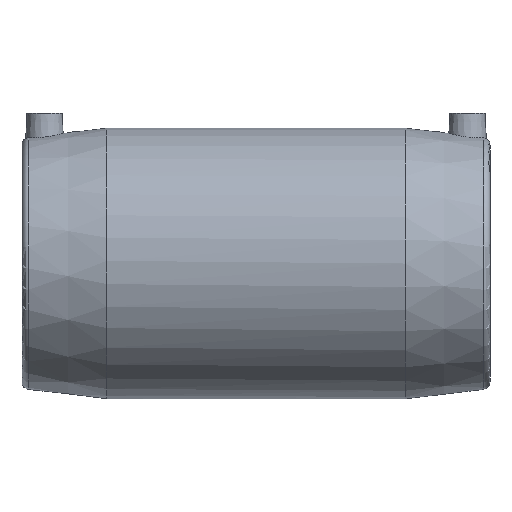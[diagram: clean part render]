
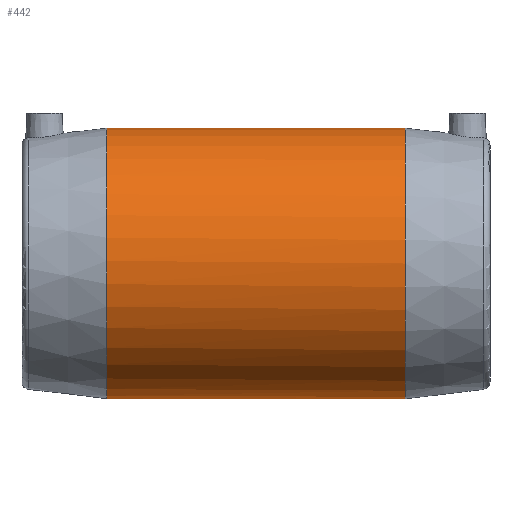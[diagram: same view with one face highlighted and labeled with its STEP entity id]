
A CAD part, front view. The second image highlights one B-rep face of the part: STEP entity #442.
In plain terms, the highlighted cylindrical face has radius 72 mm (diameter 144 mm), a full revolution.
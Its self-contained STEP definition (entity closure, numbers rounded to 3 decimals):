
#51=B_SPLINE_CURVE_WITH_KNOTS('',3,(#922,#923,#924,#925,#926,#927,#928,
#929,#930,#931,#932,#933,#934,#935,#936,#937,#938,#939,#940,#941,#942,#943,
#944,#945,#946,#947,#948,#949,#950,#951,#952,#953,#954,#955,#956,#957,#958,
#959,#960,#961,#962,#963,#964,#965,#966,#967,#968,#969,#970,#971,#972,#973,
#974,#975,#976,#977,#978,#979,#980,#981,#982,#983,#984,#985),
 .UNSPECIFIED.,.T.,.F.,(1,1,1,1,1,1,1,1,1,1,1,1,1,1,1,1,1,1,1,1,1,1,1,1,
1,1,1,1,1,1,1,1,1,1,1,1,1,1,1,1,1,1,1,1,1,1,1,1,1,1,1,1,1,1,1,1,1,1,1,1,
1,1,1,1,1,1,1,1),(-0.019,-0.013,-0.006,
0.,0.013,0.019,0.025,
0.038,0.044,0.051,0.057,
0.063,0.07,0.076,0.082,
0.089,0.095,0.101,0.108,
0.114,0.12,0.127,0.133,
0.139,0.146,0.152,0.158,
0.165,0.171,0.177,0.184,
0.19,0.196,0.203,0.209,
0.215,0.222,0.228,0.241,
0.247,0.253,0.259,0.266,
0.272,0.278,0.285,0.291,0.297,
0.304,0.31,0.316,0.323,
0.329,0.335,0.342,0.348,0.354,
0.361,0.367,0.373,0.38,
0.386,0.392,0.399,0.405,
0.418,0.424,0.43),.UNSPECIFIED.);
#116=ORIENTED_EDGE('',*,*,#193,.T.);
#117=ORIENTED_EDGE('',*,*,#179,.F.);
#118=ORIENTED_EDGE('',*,*,#177,.T.);
#177=EDGE_CURVE('',#222,#222,#260,.T.);
#179=EDGE_CURVE('',#224,#224,#261,.T.);
#193=EDGE_CURVE('',#237,#237,#51,.T.);
#222=VERTEX_POINT('',#735);
#224=VERTEX_POINT('',#750);
#237=VERTEX_POINT('',#986);
#260=CIRCLE('',#493,72.);
#261=CIRCLE('',#495,72.);
#313=EDGE_LOOP('',(#116));
#314=EDGE_LOOP('',(#117));
#315=EDGE_LOOP('',(#118));
#381=FACE_BOUND('',#313,.T.);
#382=FACE_BOUND('',#314,.T.);
#383=FACE_BOUND('',#315,.T.);
#420=CYLINDRICAL_SURFACE('',#508,72.);
#442=ADVANCED_FACE('',(#381,#382,#383),#420,.T.);
#493=AXIS2_PLACEMENT_3D('',#734,#575,#576);
#495=AXIS2_PLACEMENT_3D('',#749,#579,#580);
#508=AXIS2_PLACEMENT_3D('',#921,#607,#608);
#575=DIRECTION('',(-1.,0.,0.));
#576=DIRECTION('',(0.,0.,1.));
#579=DIRECTION('',(-1.,0.,0.));
#580=DIRECTION('',(0.,0.,1.));
#607=DIRECTION('',(-1.,0.,0.));
#608=DIRECTION('',(0.,0.,1.));
#734=CARTESIAN_POINT('',(79.5,0.,0.));
#735=CARTESIAN_POINT('',(79.5,0.,72.));
#749=CARTESIAN_POINT('',(-79.5,0.,0.));
#750=CARTESIAN_POINT('',(-79.5,0.,72.));
#921=CARTESIAN_POINT('',(-60.,0.,0.));
#922=CARTESIAN_POINT('',(60.768,71.813,-6.336));
#923=CARTESIAN_POINT('',(61.235,72.189,2.11));
#924=CARTESIAN_POINT('',(60.285,71.424,10.576));
#925=CARTESIAN_POINT('',(58.095,69.685,18.436));
#926=CARTESIAN_POINT('',(55.103,67.337,26.007));
#927=CARTESIAN_POINT('',(51.145,64.297,32.736));
#928=CARTESIAN_POINT('',(46.34,60.765,38.733));
#929=CARTESIAN_POINT('',(42.436,57.997,42.753));
#930=CARTESIAN_POINT('',(38.217,55.144,46.366));
#931=CARTESIAN_POINT('',(33.675,52.256,49.59));
#932=CARTESIAN_POINT('',(28.784,49.4,52.426));
#933=CARTESIAN_POINT('',(23.642,46.733,54.806));
#934=CARTESIAN_POINT('',(18.181,44.337,56.752));
#935=CARTESIAN_POINT('',(12.313,42.363,58.23));
#936=CARTESIAN_POINT('',(6.25,41.064,59.144));
#937=CARTESIAN_POINT('',(-0.118,40.605,59.457));
#938=CARTESIAN_POINT('',(-6.338,41.079,59.134));
#939=CARTESIAN_POINT('',(-12.508,42.416,58.192));
#940=CARTESIAN_POINT('',(-18.266,44.373,56.724));
#941=CARTESIAN_POINT('',(-23.759,46.787,54.762));
#942=CARTESIAN_POINT('',(-28.931,49.482,52.348));
#943=CARTESIAN_POINT('',(-33.744,52.3,49.542));
#944=CARTESIAN_POINT('',(-38.263,55.173,46.331));
#945=CARTESIAN_POINT('',(-42.523,58.057,42.674));
#946=CARTESIAN_POINT('',(-46.443,60.839,38.613));
#947=CARTESIAN_POINT('',(-49.972,63.435,34.192));
#948=CARTESIAN_POINT('',(-53.113,65.81,29.381));
#949=CARTESIAN_POINT('',(-55.861,67.932,24.094));
#950=CARTESIAN_POINT('',(-58.09,69.682,18.446));
#951=CARTESIAN_POINT('',(-59.734,70.987,12.555));
#952=CARTESIAN_POINT('',(-60.769,71.815,6.314));
#953=CARTESIAN_POINT('',(-61.115,72.092,0.051));
#954=CARTESIAN_POINT('',(-60.771,71.816,-6.308));
#955=CARTESIAN_POINT('',(-59.754,71.002,-12.449));
#956=CARTESIAN_POINT('',(-58.128,69.711,-18.342));
#957=CARTESIAN_POINT('',(-55.14,67.366,-25.932));
#958=CARTESIAN_POINT('',(-51.199,64.338,-32.656));
#959=CARTESIAN_POINT('',(-46.399,60.807,-38.667));
#960=CARTESIAN_POINT('',(-42.497,58.04,-42.695));
#961=CARTESIAN_POINT('',(-38.281,55.186,-46.316));
#962=CARTESIAN_POINT('',(-33.741,52.296,-49.548));
#963=CARTESIAN_POINT('',(-28.851,49.437,-52.391));
#964=CARTESIAN_POINT('',(-23.711,46.766,-54.779));
#965=CARTESIAN_POINT('',(-18.251,44.364,-56.731));
#966=CARTESIAN_POINT('',(-12.384,42.383,-58.216));
#967=CARTESIAN_POINT('',(-6.319,41.075,-59.137));
#968=CARTESIAN_POINT('',(0.051,40.605,-59.458));
#969=CARTESIAN_POINT('',(6.275,41.07,-59.141));
#970=CARTESIAN_POINT('',(12.451,42.4,-58.203));
#971=CARTESIAN_POINT('',(18.216,44.354,-56.739));
#972=CARTESIAN_POINT('',(23.714,46.765,-54.78));
#973=CARTESIAN_POINT('',(28.892,49.461,-52.369));
#974=CARTESIAN_POINT('',(33.71,52.279,-49.564));
#975=CARTESIAN_POINT('',(38.234,55.154,-46.355));
#976=CARTESIAN_POINT('',(42.499,58.04,-42.697));
#977=CARTESIAN_POINT('',(46.422,60.824,-38.637));
#978=CARTESIAN_POINT('',(49.955,63.422,-34.216));
#979=CARTESIAN_POINT('',(53.1,65.8,-29.403));
#980=CARTESIAN_POINT('',(55.853,67.926,-24.113));
#981=CARTESIAN_POINT('',(58.084,69.677,-18.465));
#982=CARTESIAN_POINT('',(59.731,70.984,-12.569));
#983=CARTESIAN_POINT('',(60.768,71.813,-6.336));
#984=CARTESIAN_POINT('',(61.235,72.189,2.11));
#985=CARTESIAN_POINT('',(60.285,71.424,10.576));
#986=CARTESIAN_POINT('',(61.,72.,0.));
